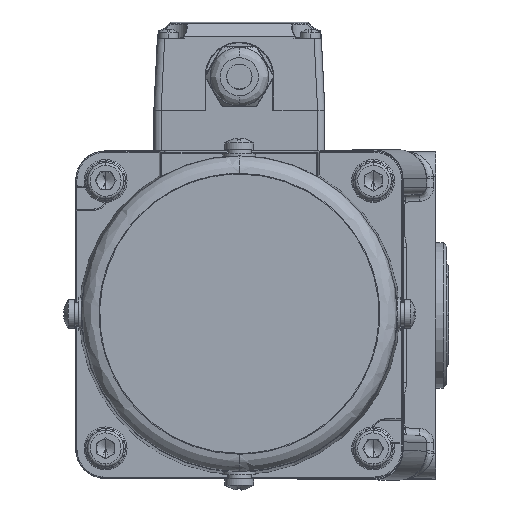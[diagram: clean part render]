
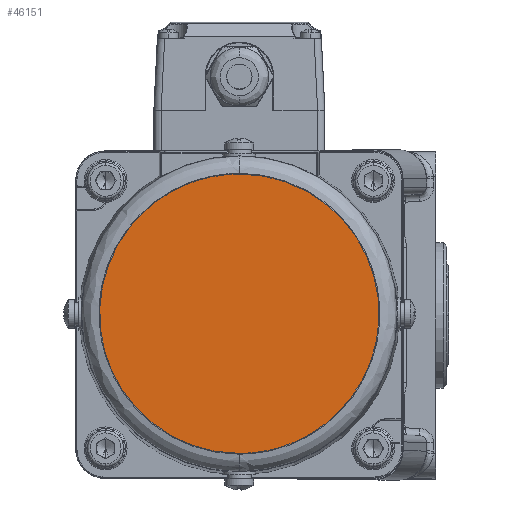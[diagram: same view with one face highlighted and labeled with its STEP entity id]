
A CAD part, top view. The second image highlights one B-rep face of the part: STEP entity #46151.
In plain terms, the highlighted planar face has unit normal (0, 0, 1) as drawn and (0, 0, -1) by its records, which use the part's own axes.
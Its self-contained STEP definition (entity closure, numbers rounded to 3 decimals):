
#5650 = CARTESIAN_POINT ( 'NONE',  ( 33.249, -89.635, 94.25 ) ) ;
#12452 = CARTESIAN_POINT ( 'NONE',  ( 33.245, 63.965, 94.25 ) ) ;
#14276 = DIRECTION ( 'NONE',  ( 0., 0., 1. ) ) ;
#20001 = CARTESIAN_POINT ( 'NONE',  ( -43.553, -12.836, 94.25 ) ) ;
#23933 =( BOUNDED_CURVE ( )  B_SPLINE_CURVE ( 3, ( #92252, #12452, #99191, #20001 ),
 .UNSPECIFIED., .F., .F. ) 
 B_SPLINE_CURVE_WITH_KNOTS ( ( 4, 4 ),
 ( 0., 1. ),
 .UNSPECIFIED. ) 
 CURVE ( )  GEOMETRIC_REPRESENTATION_ITEM ( )  RATIONAL_B_SPLINE_CURVE ( ( 1., 0.333, 0.333, 1. ) ) 
 REPRESENTATION_ITEM ( '' )  );
#28208 = CARTESIAN_POINT ( 'NONE',  ( -43.553, -12.836, 94.25 ) ) ;
#30491 = PLANE ( 'NONE',  #110998 ) ;
#33034 =( BOUNDED_CURVE ( )  B_SPLINE_CURVE ( 3, ( #50097, #39194, #5650, #102733 ),
 .UNSPECIFIED., .F., .F. ) 
 B_SPLINE_CURVE_WITH_KNOTS ( ( 4, 4 ),
 ( 0., 1. ),
 .UNSPECIFIED. ) 
 CURVE ( )  GEOMETRIC_REPRESENTATION_ITEM ( )  RATIONAL_B_SPLINE_CURVE ( ( 1., 0.333, 0.333, 1. ) ) 
 REPRESENTATION_ITEM ( '' )  );
#39194 = CARTESIAN_POINT ( 'NONE',  ( -43.551, -89.636, 94.25 ) ) ;
#43794 = EDGE_CURVE ( 'NONE', #66489, #71087, #33034, .T. ) ;
#46151 = ADVANCED_FACE ( 'NONE', ( #110238 ), #30491, .F. ) ;
#50097 = CARTESIAN_POINT ( 'NONE',  ( -43.553, -12.836, 94.25 ) ) ;
#54807 = EDGE_LOOP ( 'NONE', ( #78779, #81008 ) ) ;
#58193 = CARTESIAN_POINT ( 'NONE',  ( -5.153, -12.836, 94.25 ) ) ;
#66489 = VERTEX_POINT ( 'NONE', #28208 ) ;
#71087 = VERTEX_POINT ( 'NONE', #79974 ) ;
#78779 = ORIENTED_EDGE ( 'NONE', *, *, #43794, .F. ) ;
#79974 = CARTESIAN_POINT ( 'NONE',  ( 33.247, -12.835, 94.25 ) ) ;
#81008 = ORIENTED_EDGE ( 'NONE', *, *, #84818, .F. ) ;
#84818 = EDGE_CURVE ( 'NONE', #71087, #66489, #23933, .T. ) ;
#92252 = CARTESIAN_POINT ( 'NONE',  ( 33.247, -12.835, 94.25 ) ) ;
#92948 = DIRECTION ( 'NONE',  ( 1., 0., 0. ) ) ;
#99191 = CARTESIAN_POINT ( 'NONE',  ( -43.555, 63.964, 94.25 ) ) ;
#102733 = CARTESIAN_POINT ( 'NONE',  ( 33.247, -12.835, 94.25 ) ) ;
#110238 = FACE_OUTER_BOUND ( 'NONE', #54807, .T. ) ;
#110998 = AXIS2_PLACEMENT_3D ( 'NONE', #58193, #14276, #92948 ) ;
